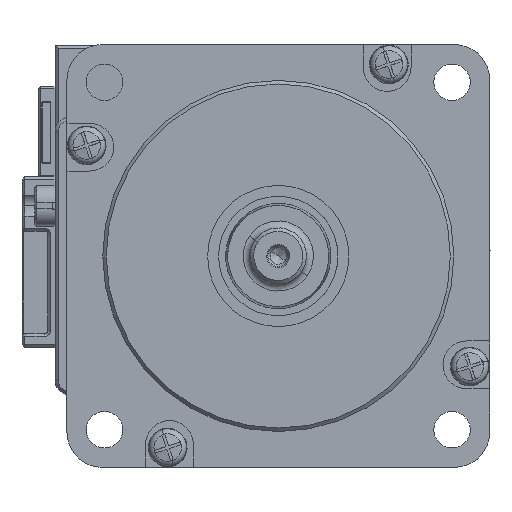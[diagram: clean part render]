
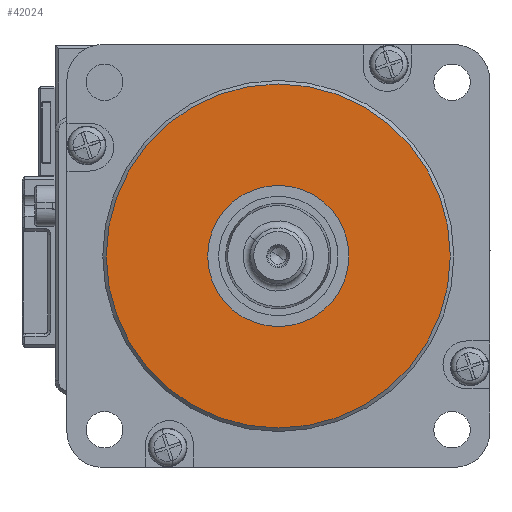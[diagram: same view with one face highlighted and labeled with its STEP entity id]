
A CAD part, left-side view. The second image highlights one B-rep face of the part: STEP entity #42024.
In plain terms, the highlighted planar face has unit normal (-1, 0, 0) as drawn and (0, 0, -1) by its records, which use the part's own axes.
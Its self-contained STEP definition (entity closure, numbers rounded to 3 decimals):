
#507 = DIRECTION ( 'NONE',  ( 1., 0., 0. ) ) ;
#1318 = EDGE_CURVE ( 'NONE', #36055, #36055, #36132, .T. ) ;
#2563 = EDGE_LOOP ( 'NONE', ( #31685 ) ) ;
#7016 = AXIS2_PLACEMENT_3D ( 'NONE', #61195, #29973, #56023 ) ;
#7150 = EDGE_LOOP ( 'NONE', ( #61722 ) ) ;
#8704 = DIRECTION ( 'NONE',  ( 0., 0., 1. ) ) ;
#10825 = DIRECTION ( 'NONE',  ( 0., 0., 1. ) ) ;
#12509 = CIRCLE ( 'NONE', #7016, 24.5 ) ;
#16168 = VERTEX_POINT ( 'NONE', #42552 ) ;
#20647 = CARTESIAN_POINT ( 'NONE',  ( 10.051, 0., 0. ) ) ;
#28508 = AXIS2_PLACEMENT_3D ( 'NONE', #47498, #10825, #507 ) ;
#29629 = DIRECTION ( 'NONE',  ( 1., 0., 0. ) ) ;
#29973 = DIRECTION ( 'NONE',  ( 0., 0., -1. ) ) ;
#31685 = ORIENTED_EDGE ( 'NONE', *, *, #35099, .T. ) ;
#34752 = PLANE ( 'NONE',  #45836 ) ;
#35099 = EDGE_CURVE ( 'NONE', #16168, #16168, #12509, .T. ) ;
#36055 = VERTEX_POINT ( 'NONE', #20647 ) ;
#36132 = CIRCLE ( 'NONE', #28508, 10.051 ) ;
#42024 = ADVANCED_FACE ( 'NONE', ( #62214, #60861 ), #34752, .F. ) ;
#42552 = CARTESIAN_POINT ( 'NONE',  ( 24.5, 0., 0. ) ) ;
#45836 = AXIS2_PLACEMENT_3D ( 'NONE', #55679, #8704, #29629 ) ;
#47498 = CARTESIAN_POINT ( 'NONE',  ( 0., 0., 0. ) ) ;
#55679 = CARTESIAN_POINT ( 'NONE',  ( 0., 0., 0. ) ) ;
#56023 = DIRECTION ( 'NONE',  ( 1., 0., 0. ) ) ;
#60861 = FACE_BOUND ( 'NONE', #7150, .T. ) ;
#61195 = CARTESIAN_POINT ( 'NONE',  ( 0., 0., 0. ) ) ;
#61722 = ORIENTED_EDGE ( 'NONE', *, *, #1318, .T. ) ;
#62214 = FACE_OUTER_BOUND ( 'NONE', #2563, .T. ) ;
